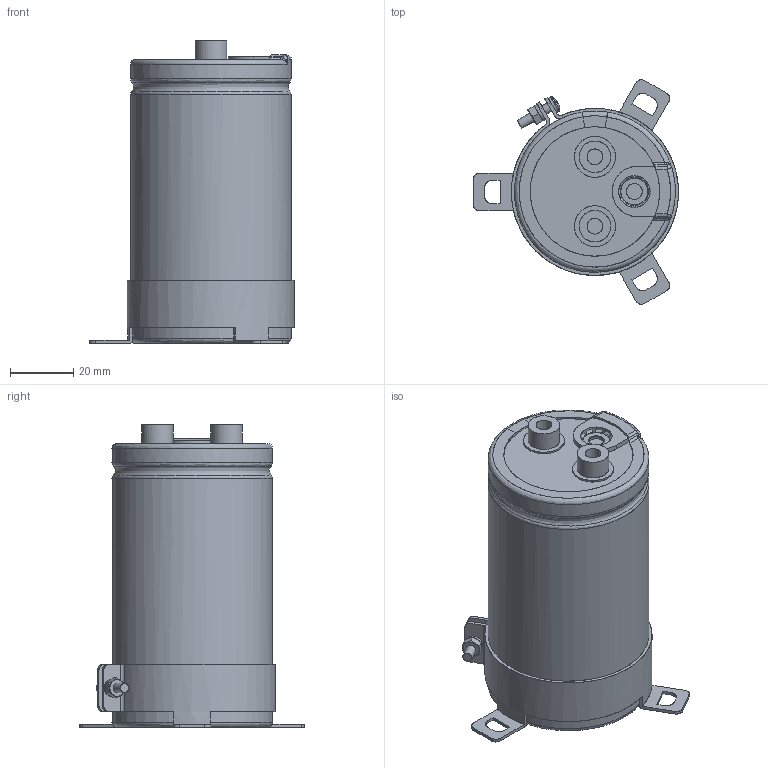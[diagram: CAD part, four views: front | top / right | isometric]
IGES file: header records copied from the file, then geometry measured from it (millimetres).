
Start section: JAMA-IS VERSION  1.0
Bounding box: 65 x 71.22 x 96 mm (x, y, z)
Surface area: 57663.9 mm2 (no closed solid volume)
Topology: 0 solids, 0 shells, 298 faces, 4625 edges, 4595 vertices
Faces by surface type: bspline 298
